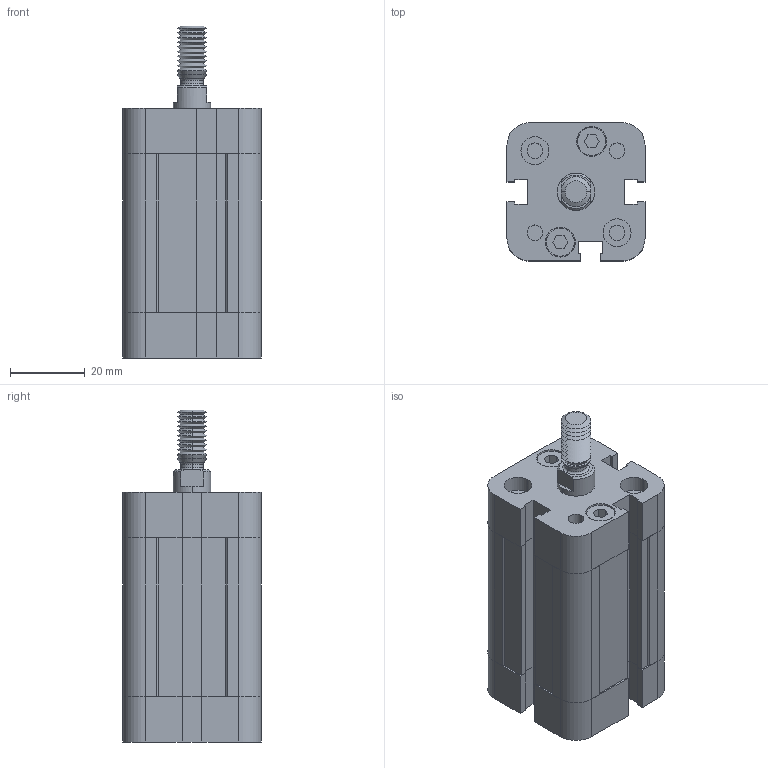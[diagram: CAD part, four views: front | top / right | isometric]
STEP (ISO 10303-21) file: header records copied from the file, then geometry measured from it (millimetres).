
FILE_DESCRIPTION (( 'STEP AP203' ), '1' );
FILE_NAME ('NSKI020.0030 M.STEP', '2010-06-04T13:27:05', ( 'Vesta Automation srl' ), ( 'Vesta Automation srl' ), 'SwSTEP 2.0', 'SolidWorks 2009', '' );
FILE_SCHEMA (( 'CONFIG_CONTROL_DESIGN' ));
Length unit declared in the file: millimetre
Products named in the file (5): FRONT END CAP-NSKI 20; REAR END CAP-NSKI 20; NSKI020.0030 M; PISTON ROD-NSKI 020 M_STROKE 0030; BARREL-NSKI20_STROKE 0030
Assembly tree (4 placements, depth 2):
  NSKI020.0030 M
    FRONT END CAP-NSKI 20
    BARREL-NSKI20_STROKE 0030
    REAR END CAP-NSKI 20
    PISTON ROD-NSKI 020 M_STROKE 0030
Bounding box: 37 x 37 x 89 mm (x, y, z)
Volume: 72091.6 mm3; surface area: 29881.3 mm2
Topology: 5 solids, 5 shells, 522 faces, 1298 edges, 820 vertices
Faces by surface type: plane 288, cylinder 138, cone 92, torus 4
Entity records: 15897 total; most frequent: DIRECTION 2690, CARTESIAN_POINT 2659, ORIENTED_EDGE 2596, EDGE_CURVE 1298, VECTOR 956, LINE 956, AXIS2_PLACEMENT_3D 867, VERTEX_POINT 820
